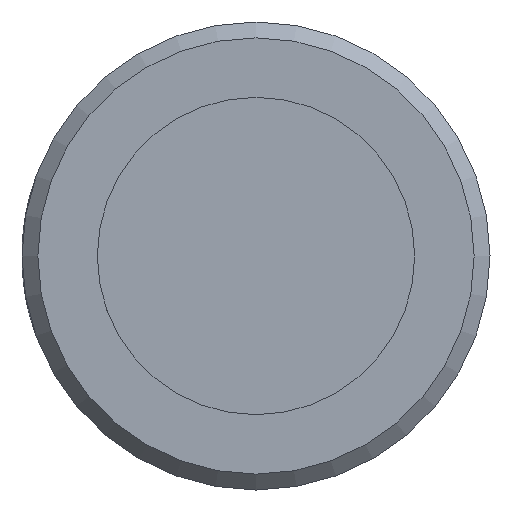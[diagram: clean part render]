
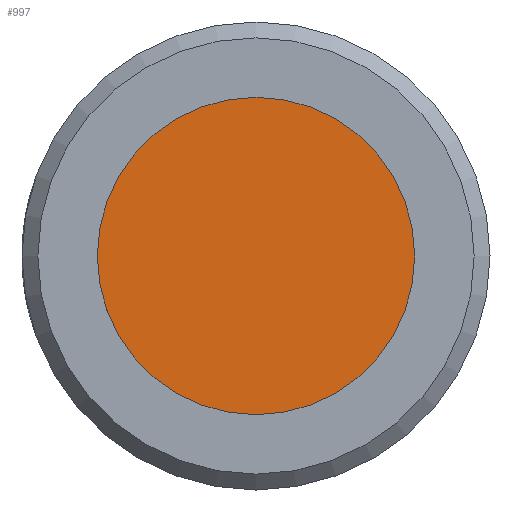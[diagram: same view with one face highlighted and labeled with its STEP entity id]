
A CAD part, left-side view. The second image highlights one B-rep face of the part: STEP entity #997.
In plain terms, the highlighted planar face has unit normal (-1, 0, 0).
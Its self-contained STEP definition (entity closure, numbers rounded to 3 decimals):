
#61=PLANE('',#1091);
#107=FACE_OUTER_BOUND('',#172,.T.);
#172=EDGE_LOOP('',(#787));
#399=CIRCLE('',#1092,20.);
#470=VERTEX_POINT('',#2174);
#583=EDGE_CURVE('',#470,#470,#399,.T.);
#787=ORIENTED_EDGE('',*,*,#583,.F.);
#997=ADVANCED_FACE('',(#107),#61,.T.);
#1091=AXIS2_PLACEMENT_3D('',#2173,#1266,#1267);
#1092=AXIS2_PLACEMENT_3D('',#2175,#1268,#1269);
#1266=DIRECTION('center_axis',(-1.,0.,0.));
#1267=DIRECTION('ref_axis',(0.,0.,1.));
#1268=DIRECTION('center_axis',(1.,0.,0.));
#1269=DIRECTION('ref_axis',(0.,0.,-1.));
#2173=CARTESIAN_POINT('Origin',(78.,0.,20.));
#2174=CARTESIAN_POINT('',(78.,0.,-20.));
#2175=CARTESIAN_POINT('Origin',(78.,0.,0.));
